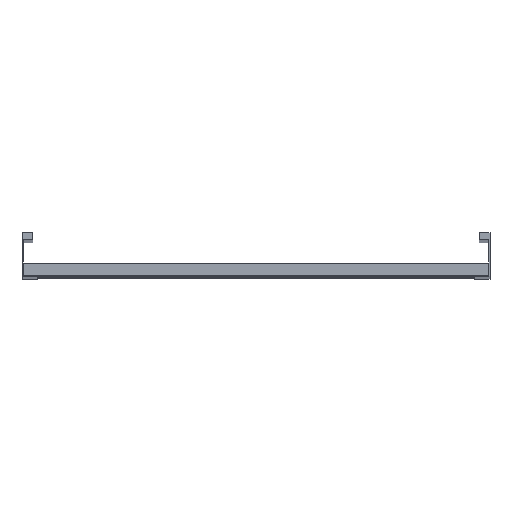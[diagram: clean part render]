
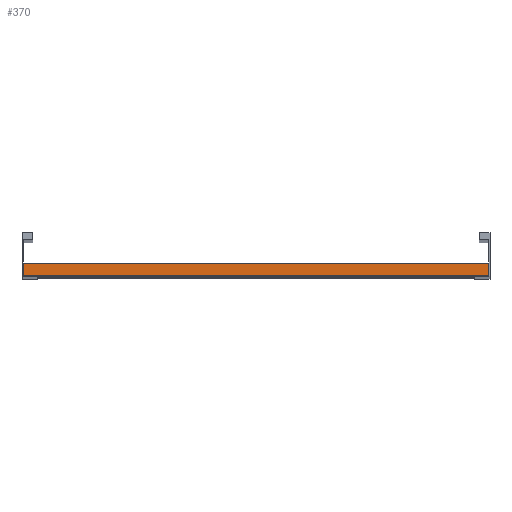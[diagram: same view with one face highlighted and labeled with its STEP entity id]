
A CAD part, top view. The second image highlights one B-rep face of the part: STEP entity #370.
In plain terms, the highlighted planar face has unit normal (0, 0, 1).
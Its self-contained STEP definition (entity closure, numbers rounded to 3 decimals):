
#12 = VERTEX_POINT ( 'NONE', #1074 ) ;
#52 = ORIENTED_EDGE ( 'NONE', *, *, #242, .F. ) ;
#84 = CARTESIAN_POINT ( 'NONE',  ( -398., 20., 20.25 ) ) ;
#113 = CARTESIAN_POINT ( 'NONE',  ( -398., 20., 20.25 ) ) ;
#145 = ORIENTED_EDGE ( 'NONE', *, *, #1281, .T. ) ;
#151 = CARTESIAN_POINT ( 'NONE',  ( 398., 20., 20.25 ) ) ;
#196 = DIRECTION ( 'NONE',  ( 0., -1., 0. ) ) ;
#242 = EDGE_CURVE ( 'NONE', #1054, #12, #1403, .T. ) ;
#286 = CARTESIAN_POINT ( 'NONE',  ( 398., 20., 20.25 ) ) ;
#345 = VERTEX_POINT ( 'NONE', #151 ) ;
#366 = VECTOR ( 'NONE', #737, 1000. ) ;
#370 = ADVANCED_FACE ( 'NONE', ( #1634 ), #1323, .F. ) ;
#394 = CARTESIAN_POINT ( 'NONE',  ( 398., 0., 20.25 ) ) ;
#446 = EDGE_CURVE ( 'NONE', #1532, #12, #479, .T. ) ;
#463 = ORIENTED_EDGE ( 'NONE', *, *, #907, .F. ) ;
#479 = LINE ( 'NONE', #84, #1037 ) ;
#618 = DIRECTION ( 'NONE',  ( 0., -1., 0. ) ) ;
#636 = CARTESIAN_POINT ( 'NONE',  ( 398., 0., 20.25 ) ) ;
#695 = VECTOR ( 'NONE', #825, 1000. ) ;
#737 = DIRECTION ( 'NONE',  ( -1., 0., 0. ) ) ;
#740 = LINE ( 'NONE', #854, #760 ) ;
#760 = VECTOR ( 'NONE', #196, 1000. ) ;
#825 = DIRECTION ( 'NONE',  ( -1., 0., 0. ) ) ;
#854 = CARTESIAN_POINT ( 'NONE',  ( 398., 20., 20.25 ) ) ;
#907 = EDGE_CURVE ( 'NONE', #345, #1054, #740, .T. ) ;
#1037 = VECTOR ( 'NONE', #618, 1000. ) ;
#1054 = VERTEX_POINT ( 'NONE', #636 ) ;
#1074 = CARTESIAN_POINT ( 'NONE',  ( -398., 0., 20.25 ) ) ;
#1110 = CARTESIAN_POINT ( 'NONE',  ( 398., 20., 20.25 ) ) ;
#1226 = DIRECTION ( 'NONE',  ( 0., 0., -1. ) ) ;
#1281 = EDGE_CURVE ( 'NONE', #345, #1532, #1482, .T. ) ;
#1323 = PLANE ( 'NONE',  #1556 ) ;
#1361 = EDGE_LOOP ( 'NONE', ( #1642, #52, #463, #145 ) ) ;
#1403 = LINE ( 'NONE', #394, #366 ) ;
#1475 = DIRECTION ( 'NONE',  ( 0., 1., 0. ) ) ;
#1482 = LINE ( 'NONE', #286, #695 ) ;
#1532 = VERTEX_POINT ( 'NONE', #113 ) ;
#1556 = AXIS2_PLACEMENT_3D ( 'NONE', #1110, #1226, #1475 ) ;
#1634 = FACE_OUTER_BOUND ( 'NONE', #1361, .T. ) ;
#1642 = ORIENTED_EDGE ( 'NONE', *, *, #446, .T. ) ;
